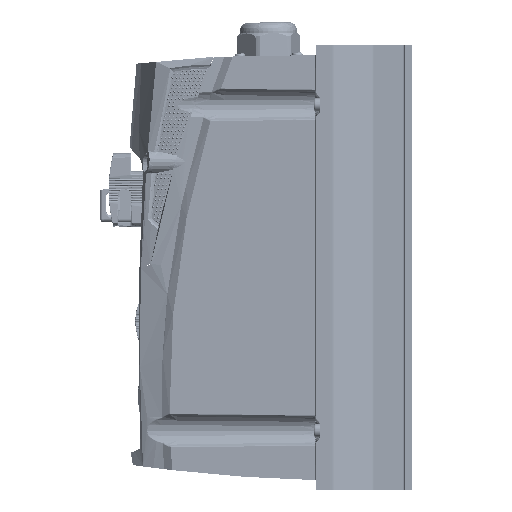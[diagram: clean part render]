
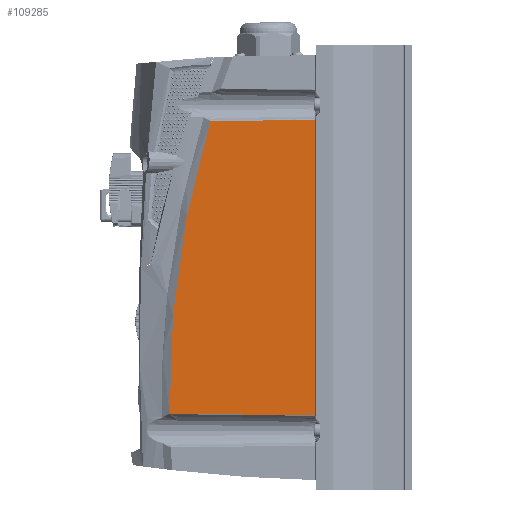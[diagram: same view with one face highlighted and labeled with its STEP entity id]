
A CAD part, left-side view. The second image highlights one B-rep face of the part: STEP entity #109285.
In plain terms, the highlighted planar face has unit normal (-1, 0.017, 0).
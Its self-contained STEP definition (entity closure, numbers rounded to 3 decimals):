
#1607 = EDGE_CURVE ( 'NONE', #128783, #137344, #21392, .T. ) ;
#3798 = CARTESIAN_POINT ( 'NONE',  ( -70.403, -0.51, -77.075 ) ) ;
#13694 = CARTESIAN_POINT ( 'NONE',  ( -70.403, -0.51, -116. ) ) ;
#16002 = CARTESIAN_POINT ( 'NONE',  ( -69.5, 51.301, 76.48 ) ) ;
#18420 = B_SPLINE_CURVE_WITH_KNOTS ( 'NONE', 3,
 ( #88313, #65757, #89870, #125104, #76266, #149192, #75750, #16002, #64703, #28094 ),
 .UNSPECIFIED., .F., .F.,
 ( 4, 3, 3, 4 ),
 ( 0., 0.017, 0.051, 0.055 ),
 .UNSPECIFIED. ) ;
#21366 = B_SPLINE_CURVE_WITH_KNOTS ( 'NONE', 3,
 ( #33072, #90766, #151102, #116043 ),
 .UNSPECIFIED., .F., .F.,
 ( 4, 4 ),
 ( 0., 0. ),
 .UNSPECIFIED. ) ;
#21392 = B_SPLINE_CURVE_WITH_KNOTS ( 'NONE', 3,
 ( #46590, #45093, #68665, #58150, #34534, #105385, #70695, #33534, #129572, #104877 ),
 .UNSPECIFIED., .F., .F.,
 ( 4, 2, 2, 2, 4 ),
 ( 0., 0.035, 0.079, 0.122, 0.155 ),
 .UNSPECIFIED. ) ;
#22432 = VERTEX_POINT ( 'NONE', #136273 ) ;
#25088 = PLANE ( 'NONE',  #70326 ) ;
#26895 = CARTESIAN_POINT ( 'NONE',  ( -69.083, 75.249, -76.218 ) ) ;
#28094 = CARTESIAN_POINT ( 'NONE',  ( -69.454, 53.915, 76.451 ) ) ;
#33072 = CARTESIAN_POINT ( 'NONE',  ( -69.082, 75.252, -76.183 ) ) ;
#33439 = VERTEX_POINT ( 'NONE', #140792 ) ;
#33534 = CARTESIAN_POINT ( 'NONE',  ( -69.082, 75.256, -53.92 ) ) ;
#34534 = CARTESIAN_POINT ( 'NONE',  ( -69.197, 68.685, 14.432 ) ) ;
#38601 = ORIENTED_EDGE ( 'NONE', *, *, #103002, .T. ) ;
#45093 = CARTESIAN_POINT ( 'NONE',  ( -69.395, 57.304, 65.29 ) ) ;
#45980 = ORIENTED_EDGE ( 'NONE', *, *, #1607, .T. ) ;
#46590 = CARTESIAN_POINT ( 'NONE',  ( -69.454, 53.915, 76.451 ) ) ;
#46740 = ORIENTED_EDGE ( 'NONE', *, *, #110665, .T. ) ;
#51479 = CARTESIAN_POINT ( 'NONE',  ( -69.963, 24.743, -76.774 ) ) ;
#58150 = CARTESIAN_POINT ( 'NONE',  ( -69.242, 66.094, 28.605 ) ) ;
#61242 = CARTESIAN_POINT ( 'NONE',  ( -70.501, -6.089, -116. ) ) ;
#61898 = DIRECTION ( 'NONE',  ( 0., 0., 1. ) ) ;
#64703 = CARTESIAN_POINT ( 'NONE',  ( -69.477, 52.608, 76.465 ) ) ;
#65757 = CARTESIAN_POINT ( 'NONE',  ( -70.307, 4.992, 77.009 ) ) ;
#68665 = CARTESIAN_POINT ( 'NONE',  ( -69.343, 60.299, 54.01 ) ) ;
#70326 = AXIS2_PLACEMENT_3D ( 'NONE', #61242, #97471, #121629 ) ;
#70695 = CARTESIAN_POINT ( 'NONE',  ( -69.105, 73.973, -28.428 ) ) ;
#74799 = CARTESIAN_POINT ( 'NONE',  ( -70.403, -0.51, -77.075 ) ) ;
#75750 = CARTESIAN_POINT ( 'NONE',  ( -69.523, 49.995, 76.494 ) ) ;
#75807 = LINE ( 'NONE', #13694, #150917 ) ;
#76266 = CARTESIAN_POINT ( 'NONE',  ( -69.918, 27.33, 76.749 ) ) ;
#80982 = EDGE_CURVE ( 'NONE', #81837, #33439, #75807, .T. ) ;
#81837 = VERTEX_POINT ( 'NONE', #74799 ) ;
#88313 = CARTESIAN_POINT ( 'NONE',  ( -70.403, -0.51, 77.075 ) ) ;
#89870 = CARTESIAN_POINT ( 'NONE',  ( -70.212, 10.495, 76.945 ) ) ;
#90766 = CARTESIAN_POINT ( 'NONE',  ( -69.082, 75.252, -76.195 ) ) ;
#97471 = DIRECTION ( 'NONE',  ( -1., 0.017, 0. ) ) ;
#103002 = EDGE_CURVE ( 'NONE', #22432, #81837, #122021, .T. ) ;
#103198 = EDGE_CURVE ( 'NONE', #137344, #22432, #21366, .T. ) ;
#104877 = CARTESIAN_POINT ( 'NONE',  ( -69.082, 75.252, -76.183 ) ) ;
#105385 = CARTESIAN_POINT ( 'NONE',  ( -69.128, 72.624, -14.084 ) ) ;
#108420 = CARTESIAN_POINT ( 'NONE',  ( -69.082, 75.252, -76.183 ) ) ;
#109285 = ADVANCED_FACE ( 'NONE', ( #118579 ), #25088, .T. ) ;
#110665 = EDGE_CURVE ( 'NONE', #33439, #128783, #18420, .T. ) ;
#111881 = CARTESIAN_POINT ( 'NONE',  ( -69.523, 49.996, -76.49 ) ) ;
#116043 = CARTESIAN_POINT ( 'NONE',  ( -69.083, 75.249, -76.218 ) ) ;
#118579 = FACE_OUTER_BOUND ( 'NONE', #128080, .T. ) ;
#121629 = DIRECTION ( 'NONE',  ( 0.017, 1., 0. ) ) ;
#122021 = B_SPLINE_CURVE_WITH_KNOTS ( 'NONE', 3,
 ( #26895, #111881, #51479, #3798 ),
 .UNSPECIFIED., .F., .F.,
 ( 4, 4 ),
 ( 0., 0.076 ),
 .UNSPECIFIED. ) ;
#125104 = CARTESIAN_POINT ( 'NONE',  ( -70.116, 15.997, 76.881 ) ) ;
#128080 = EDGE_LOOP ( 'NONE', ( #45980, #155194, #38601, #141911, #46740 ) ) ;
#128783 = VERTEX_POINT ( 'NONE', #134896 ) ;
#129572 = CARTESIAN_POINT ( 'NONE',  ( -69.079, 75.441, -65.055 ) ) ;
#134896 = CARTESIAN_POINT ( 'NONE',  ( -69.454, 53.915, 76.451 ) ) ;
#136273 = CARTESIAN_POINT ( 'NONE',  ( -69.083, 75.249, -76.218 ) ) ;
#137344 = VERTEX_POINT ( 'NONE', #108420 ) ;
#140792 = CARTESIAN_POINT ( 'NONE',  ( -70.403, -0.51, 77.075 ) ) ;
#141911 = ORIENTED_EDGE ( 'NONE', *, *, #80982, .T. ) ;
#149192 = CARTESIAN_POINT ( 'NONE',  ( -69.72, 38.662, 76.62 ) ) ;
#150917 = VECTOR ( 'NONE', #61898, 1000. ) ;
#151102 = CARTESIAN_POINT ( 'NONE',  ( -69.082, 75.251, -76.207 ) ) ;
#155194 = ORIENTED_EDGE ( 'NONE', *, *, #103198, .T. ) ;
